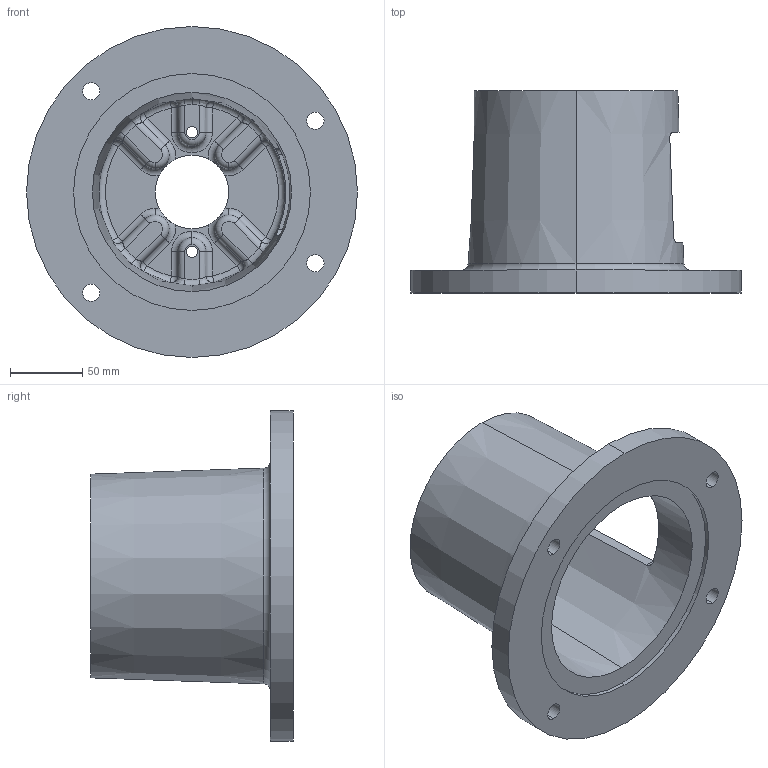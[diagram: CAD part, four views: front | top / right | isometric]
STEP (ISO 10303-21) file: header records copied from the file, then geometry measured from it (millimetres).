
FILE_DESCRIPTION (( 'STEP AP203' ), '1' );
FILE_NAME ('E700552AA.STEP', '2014-11-04T12:59:38', ( '' ), ( '' ), 'SwSTEP 2.0', 'SolidWorks 2014', '' );
FILE_SCHEMA (( 'CONFIG_CONTROL_DESIGN' ));
Length unit declared in the file: inch
Products named in the file (1): E700552AA
Bounding box: 228.6 x 139.7 x 228.6 mm (x, y, z)
Volume: 822513.7 mm3; surface area: 194553.2 mm2
Topology: 1 solids, 1 shells, 158 faces, 383 edges, 217 vertices
Faces by surface type: cylinder 55, torus 33, plane 30, bspline 24, sphere 12, cone 4
Entity records: 6250 total; most frequent: CARTESIAN_POINT 2589, DIRECTION 791, ORIENTED_EDGE 742, EDGE_CURVE 371, AXIS2_PLACEMENT_3D 349, VERTEX_POINT 217, CIRCLE 214, EDGE_LOOP 176
